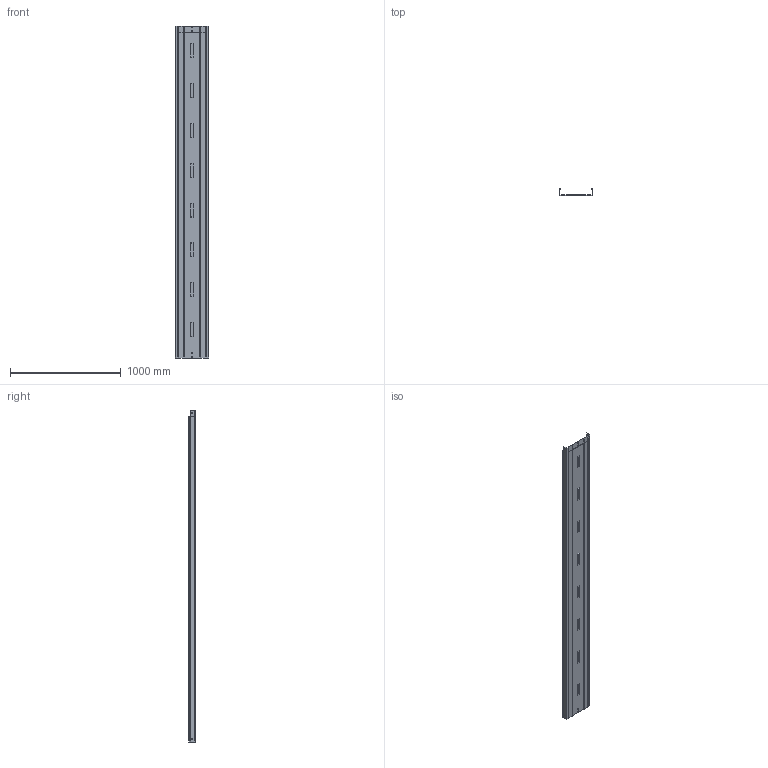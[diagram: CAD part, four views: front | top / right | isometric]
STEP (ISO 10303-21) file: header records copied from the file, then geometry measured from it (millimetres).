
FILE_DESCRIPTION (( 'STEP AP203' ), '1' );
FILE_NAME ('ERE-C 300x60 300x60.step', '2023-07-27T14:16:39', ( '' ), ( '' ), 'SwSTEP 2.0', 'SolidWorks 2022', '' );
FILE_SCHEMA (( 'CONFIG_CONTROL_DESIGN' ));
Products named in the file (1): ERE-C 300x60 300x60
Bounding box: 300 x 60.8 x 3000 mm (x, y, z)
Volume: 909844.6 mm3; surface area: 2597203.2 mm2
Topology: 1 solids, 1 shells, 10040 faces, 29534 edges, 19576 vertices
Faces by surface type: plane 9748, cylinder 188, torus 64, cone 36, bspline 4
Entity records: 327073 total; most frequent: CARTESIAN_POINT 59449, ORIENTED_EDGE 59068, DIRECTION 49990, EDGE_CURVE 29534, VECTOR 28988, LINE 28988, VERTEX_POINT 19576, AXIS2_PLACEMENT_3D 10501
